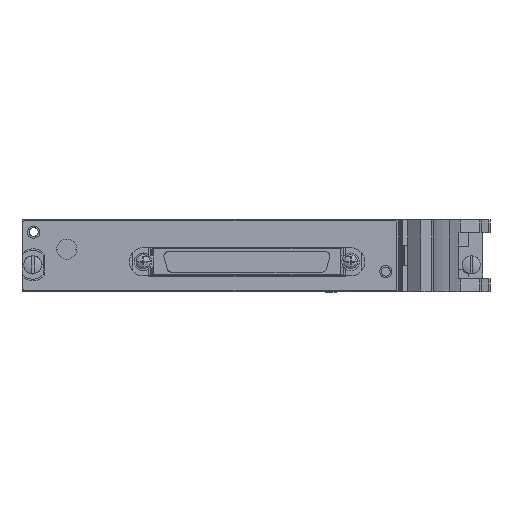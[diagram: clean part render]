
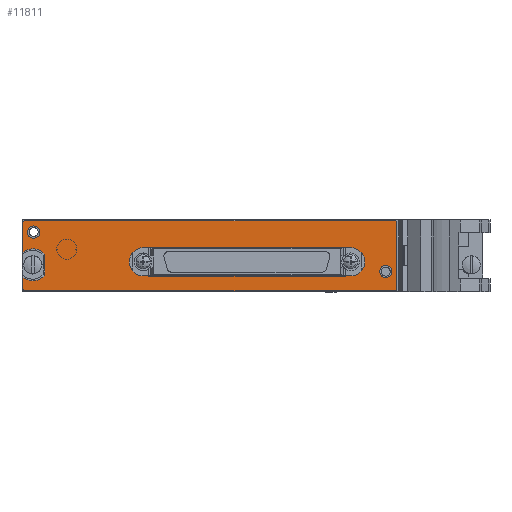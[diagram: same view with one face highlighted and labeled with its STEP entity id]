
A CAD part, left-side view. The second image highlights one B-rep face of the part: STEP entity #11811.
In plain terms, the highlighted planar face has unit normal (-1, 0, 0).
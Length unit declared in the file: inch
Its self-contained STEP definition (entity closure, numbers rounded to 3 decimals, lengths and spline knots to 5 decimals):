
#2791=CARTESIAN_POINT('',(-0.215,0.527,0.665));
#2792=DIRECTION('',(-1.,0.,0.));
#2793=DIRECTION('',(0.,0.,1.));
#2794=AXIS2_PLACEMENT_3D('',#2791,#2792,#2793);
#2796=DIRECTION('',(0.,1.,0.));
#2797=VECTOR('',#2796,4.07);
#2798=CARTESIAN_POINT('',(-0.215,-3.543,0.685));
#2799=LINE('',#2798,#2797);
#2800=CARTESIAN_POINT('',(-0.215,-3.543,0.665));
#2801=DIRECTION('',(-1.,0.,0.));
#2802=DIRECTION('',(0.,-1.,0.));
#2803=AXIS2_PLACEMENT_3D('',#2800,#2801,#2802);
#2805=DIRECTION('',(0.,0.,1.));
#2806=VECTOR('',#2805,0.728);
#2807=CARTESIAN_POINT('',(-0.215,-3.563,-0.063));
#2808=LINE('',#2807,#2806);
#2809=CARTESIAN_POINT('',(-0.215,-3.543,-0.063));
#2810=DIRECTION('',(-1.,0.,0.));
#2811=DIRECTION('',(0.,0.,-1.));
#2812=AXIS2_PLACEMENT_3D('',#2809,#2810,#2811);
#2814=DIRECTION('',(0.,-1.,0.));
#2815=VECTOR('',#2814,4.07);
#2816=CARTESIAN_POINT('',(-0.215,0.527,-0.083));
#2817=LINE('',#2816,#2815);
#2818=CARTESIAN_POINT('',(-0.215,0.527,-0.063));
#2819=DIRECTION('',(-1.,0.,0.));
#2820=DIRECTION('',(0.,1.,0.));
#2821=AXIS2_PLACEMENT_3D('',#2818,#2819,#2820);
#2823=DIRECTION('',(0.,0.,-1.));
#2824=VECTOR('',#2823,0.1263);
#2825=CARTESIAN_POINT('',(-0.215,0.547,0.0633));
#2826=LINE('',#2825,#2824);
#2827=CARTESIAN_POINT('',(-0.215,0.439,0.201));
#2828=DIRECTION('',(1.,0.,0.));
#2829=DIRECTION('',(0.,-0.76,-0.65));
#2830=AXIS2_PLACEMENT_3D('',#2827,#2828,#2829);
#2832=DIRECTION('',(0.,0.,-1.));
#2833=VECTOR('',#2832,0.22747);
#2834=CARTESIAN_POINT('',(-0.215,0.306,0.31474));
#2835=LINE('',#2834,#2833);
#2836=CARTESIAN_POINT('',(-0.215,0.439,0.201));
#2837=DIRECTION('',(1.,0.,0.));
#2838=DIRECTION('',(0.,0.617,0.787));
#2839=AXIS2_PLACEMENT_3D('',#2836,#2837,#2838);
#2841=DIRECTION('',(0.,0.,-1.));
#2842=VECTOR('',#2841,0.3263);
#2843=CARTESIAN_POINT('',(-0.215,0.547,0.665));
#2844=LINE('',#2843,#2842);
#2845=DIRECTION('',(0.,-1.,0.));
#2846=VECTOR('',#2845,2.28);
#2847=CARTESIAN_POINT('',(-0.215,-0.775,0.078));
#2848=LINE('',#2847,#2846);
#2849=CARTESIAN_POINT('',(-0.215,-3.055,0.233));
#2850=DIRECTION('',(-1.,0.,0.));
#2851=DIRECTION('',(0.,0.,-1.));
#2852=AXIS2_PLACEMENT_3D('',#2849,#2850,#2851);
#2854=DIRECTION('',(0.,1.,0.));
#2855=VECTOR('',#2854,2.28);
#2856=CARTESIAN_POINT('',(-0.215,-3.055,0.388));
#2857=LINE('',#2856,#2855);
#2858=CARTESIAN_POINT('',(-0.215,-0.775,0.233));
#2859=DIRECTION('',(-1.,0.,0.));
#2860=DIRECTION('',(0.,0.,1.));
#2861=AXIS2_PLACEMENT_3D('',#2858,#2859,#2860);
#2863=CARTESIAN_POINT('',(-0.215,0.429,0.56));
#2864=DIRECTION('',(1.,0.,0.));
#2865=DIRECTION('',(0.,0.,-1.));
#2866=AXIS2_PLACEMENT_3D('',#2863,#2864,#2865);
#2868=CARTESIAN_POINT('',(-0.215,0.429,0.56));
#2869=DIRECTION('',(1.,0.,0.));
#2870=DIRECTION('',(0.,0.,1.));
#2871=AXIS2_PLACEMENT_3D('',#2868,#2869,#2870);
#2873=CARTESIAN_POINT('',(-0.215,-3.44,0.12575));
#2874=DIRECTION('',(1.,0.,0.));
#2875=DIRECTION('',(0.,0.,-1.));
#2876=AXIS2_PLACEMENT_3D('',#2873,#2874,#2875);
#2878=CARTESIAN_POINT('',(-0.215,-3.44,0.12575));
#2879=DIRECTION('',(1.,0.,0.));
#2880=DIRECTION('',(0.,0.,1.));
#2881=AXIS2_PLACEMENT_3D('',#2878,#2879,#2880);
#8069=CARTESIAN_POINT('',(-0.215,0.527,0.685));
#8070=CARTESIAN_POINT('',(-0.215,0.547,0.665));
#8071=VERTEX_POINT('',#8069);
#8072=VERTEX_POINT('',#8070);
#8073=CARTESIAN_POINT('',(-0.215,0.547,0.3387));
#8074=VERTEX_POINT('',#8073);
#8075=CARTESIAN_POINT('',(-0.215,0.306,0.31474));
#8076=VERTEX_POINT('',#8075);
#8077=CARTESIAN_POINT('',(-0.215,0.306,0.08726));
#8078=VERTEX_POINT('',#8077);
#8079=CARTESIAN_POINT('',(-0.215,0.547,0.0633));
#8080=VERTEX_POINT('',#8079);
#8081=CARTESIAN_POINT('',(-0.215,0.547,-0.063));
#8082=VERTEX_POINT('',#8081);
#8083=CARTESIAN_POINT('',(-0.215,0.527,-0.083));
#8084=VERTEX_POINT('',#8083);
#8085=CARTESIAN_POINT('',(-0.215,-3.543,-0.083));
#8086=VERTEX_POINT('',#8085);
#8087=CARTESIAN_POINT('',(-0.215,-3.563,-0.063));
#8088=VERTEX_POINT('',#8087);
#8089=CARTESIAN_POINT('',(-0.215,-3.563,0.665));
#8090=VERTEX_POINT('',#8089);
#8091=CARTESIAN_POINT('',(-0.215,-3.543,0.685));
#8092=VERTEX_POINT('',#8091);
#8093=CARTESIAN_POINT('',(-0.215,-0.775,0.078));
#8094=CARTESIAN_POINT('',(-0.215,-3.055,0.078));
#8095=VERTEX_POINT('',#8093);
#8096=VERTEX_POINT('',#8094);
#8097=CARTESIAN_POINT('',(-0.215,-3.055,0.388));
#8098=VERTEX_POINT('',#8097);
#8099=CARTESIAN_POINT('',(-0.215,-0.775,0.388));
#8100=VERTEX_POINT('',#8099);
#8101=CARTESIAN_POINT('',(-0.215,0.429,0.4925));
#8102=CARTESIAN_POINT('',(-0.215,0.429,0.6275));
#8103=VERTEX_POINT('',#8101);
#8104=VERTEX_POINT('',#8102);
#8105=CARTESIAN_POINT('',(-0.215,-3.44,0.05825));
#8106=CARTESIAN_POINT('',(-0.215,-3.44,0.19325));
#8107=VERTEX_POINT('',#8105);
#8108=VERTEX_POINT('',#8106);
#11770=CARTESIAN_POINT('',(-0.215,0.439,0.201));
#11771=DIRECTION('',(-1.,0.,0.));
#11772=DIRECTION('',(0.,0.,1.));
#11773=AXIS2_PLACEMENT_3D('',#11770,#11771,#11772);
#11774=PLANE('',#11773);
#11775=ORIENTED_EDGE('',*,*,#11610,.F.);
#11776=ORIENTED_EDGE('',*,*,#11625,.F.);
#11777=ORIENTED_EDGE('',*,*,#11639,.F.);
#11778=ORIENTED_EDGE('',*,*,#11653,.F.);
#11779=ORIENTED_EDGE('',*,*,#11667,.F.);
#11780=ORIENTED_EDGE('',*,*,#11681,.F.);
#11781=ORIENTED_EDGE('',*,*,#11695,.F.);
#11782=ORIENTED_EDGE('',*,*,#11709,.F.);
#11783=ORIENTED_EDGE('',*,*,#11723,.F.);
#11784=ORIENTED_EDGE('',*,*,#11737,.F.);
#11785=ORIENTED_EDGE('',*,*,#11751,.F.);
#11786=ORIENTED_EDGE('',*,*,#11764,.F.);
#11787=EDGE_LOOP('',(#11775,#11776,#11777,#11778,#11779,#11780,#11781,#11782,
#11783,#11784,#11785,#11786));
#11788=FACE_OUTER_BOUND('',#11787,.F.);
#11790=ORIENTED_EDGE('',*,*,#11789,.T.);
#11792=ORIENTED_EDGE('',*,*,#11791,.T.);
#11794=ORIENTED_EDGE('',*,*,#11793,.T.);
#11796=ORIENTED_EDGE('',*,*,#11795,.T.);
#11797=EDGE_LOOP('',(#11790,#11792,#11794,#11796));
#11798=FACE_BOUND('',#11797,.F.);
#11800=ORIENTED_EDGE('',*,*,#11799,.F.);
#11802=ORIENTED_EDGE('',*,*,#11801,.F.);
#11803=EDGE_LOOP('',(#11800,#11802));
#11804=FACE_BOUND('',#11803,.F.);
#11806=ORIENTED_EDGE('',*,*,#11805,.F.);
#11808=ORIENTED_EDGE('',*,*,#11807,.F.);
#11809=EDGE_LOOP('',(#11806,#11808));
#11810=FACE_BOUND('',#11809,.F.);
#11811=ADVANCED_FACE('',(#11788,#11798,#11804,#11810),#11774,.T.);
#2795=CIRCLE('',#2794,0.02);
#2804=CIRCLE('',#2803,0.02);
#2813=CIRCLE('',#2812,0.02);
#2822=CIRCLE('',#2821,0.02);
#2831=CIRCLE('',#2830,0.175);
#2840=CIRCLE('',#2839,0.175);
#2853=CIRCLE('',#2852,0.155);
#2862=CIRCLE('',#2861,0.155);
#2867=CIRCLE('',#2866,0.0675);
#2872=CIRCLE('',#2871,0.0675);
#2877=CIRCLE('',#2876,0.0675);
#2882=CIRCLE('',#2881,0.0675);
#11610=EDGE_CURVE('',#8071,#8072,#2795,.T.);
#11625=EDGE_CURVE('',#8092,#8071,#2799,.T.);
#11639=EDGE_CURVE('',#8090,#8092,#2804,.T.);
#11653=EDGE_CURVE('',#8088,#8090,#2808,.T.);
#11667=EDGE_CURVE('',#8086,#8088,#2813,.T.);
#11681=EDGE_CURVE('',#8084,#8086,#2817,.T.);
#11695=EDGE_CURVE('',#8082,#8084,#2822,.T.);
#11709=EDGE_CURVE('',#8080,#8082,#2826,.T.);
#11723=EDGE_CURVE('',#8078,#8080,#2831,.T.);
#11737=EDGE_CURVE('',#8076,#8078,#2835,.T.);
#11751=EDGE_CURVE('',#8074,#8076,#2840,.T.);
#11764=EDGE_CURVE('',#8072,#8074,#2844,.T.);
#11789=EDGE_CURVE('',#8095,#8096,#2848,.T.);
#11791=EDGE_CURVE('',#8096,#8098,#2853,.T.);
#11793=EDGE_CURVE('',#8098,#8100,#2857,.T.);
#11795=EDGE_CURVE('',#8100,#8095,#2862,.T.);
#11799=EDGE_CURVE('',#8103,#8104,#2867,.T.);
#11801=EDGE_CURVE('',#8104,#8103,#2872,.T.);
#11805=EDGE_CURVE('',#8107,#8108,#2877,.T.);
#11807=EDGE_CURVE('',#8108,#8107,#2882,.T.);
